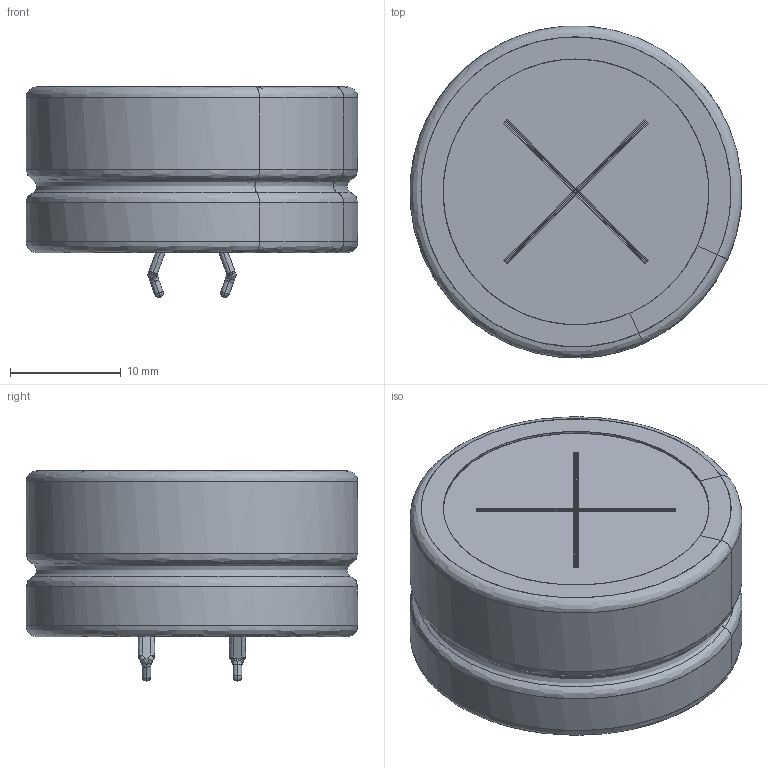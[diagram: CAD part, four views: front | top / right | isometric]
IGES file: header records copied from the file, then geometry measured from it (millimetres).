
Start section: JAMA-IS VERSION  1.0
Bounding box: 29.97 x 29.97 x 19.02 mm (x, y, z)
Surface area: 6701.9 mm2 (no closed solid volume)
Topology: 0 solids, 0 shells, 208 faces, 2354 edges, 2318 vertices
Faces by surface type: bspline 208
